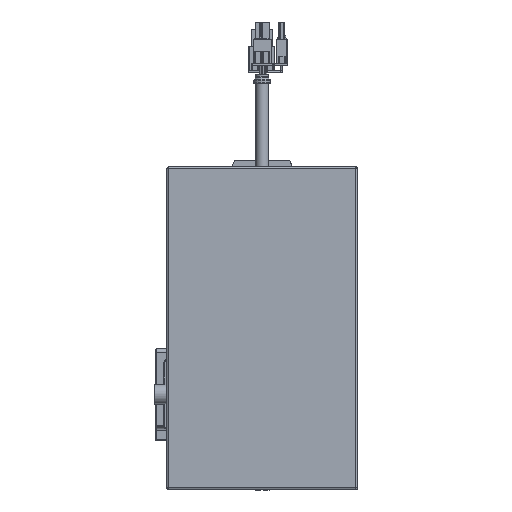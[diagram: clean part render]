
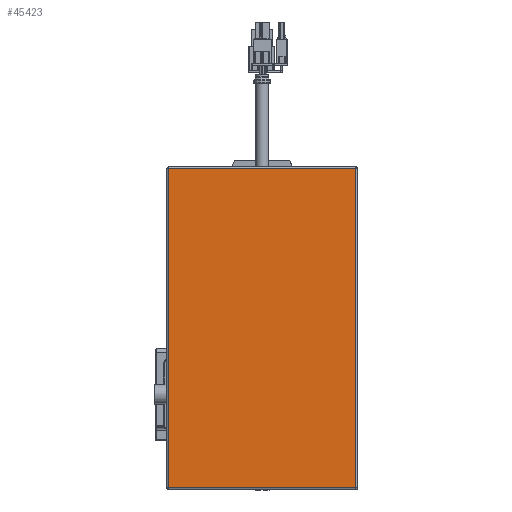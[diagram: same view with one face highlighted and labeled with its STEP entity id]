
A CAD part, top view. The second image highlights one B-rep face of the part: STEP entity #45423.
In plain terms, the highlighted planar face has unit normal (0, 0, 1).
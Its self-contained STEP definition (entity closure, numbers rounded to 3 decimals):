
#45384=CARTESIAN_POINT('',(-36.,36.,514.5));
#45385=DIRECTION('',(0.,1.,0.));
#45386=DIRECTION('',(0.,-0.,1.));
#45387=AXIS2_PLACEMENT_3D('',#45384,#45386,#45385);
#45388=PLANE('',#45387);
#45389=CARTESIAN_POINT('',(51.,-51.,514.5));
#45390=VERTEX_POINT('',#45389);
#45391=CARTESIAN_POINT('',(51.,123.,514.5));
#45392=VERTEX_POINT('',#45391);
#45393=CARTESIAN_POINT('',(51.,-51.,514.5));
#45394=DIRECTION('',(0.,1.,0.));
#45395=VECTOR('',#45394,174.);
#45396=LINE('',#45393,#45395);
#45397=EDGE_CURVE('',#45390,#45392,#45396,.T.);
#45398=ORIENTED_EDGE('E3955',*,*,#45397,.T.);
#45399=CARTESIAN_POINT('',(-51.,123.,514.5));
#45400=VERTEX_POINT('',#45399);
#45401=CARTESIAN_POINT('',(51.,123.,514.5));
#45402=DIRECTION('',(-1.,0.,0.));
#45403=VECTOR('',#45402,102.);
#45404=LINE('',#45401,#45403);
#45405=EDGE_CURVE('',#45392,#45400,#45404,.T.);
#45406=ORIENTED_EDGE('E3956',*,*,#45405,.T.);
#45407=CARTESIAN_POINT('',(-51.,-51.,514.5));
#45408=VERTEX_POINT('',#45407);
#45409=CARTESIAN_POINT('',(-51.,123.,514.5));
#45410=DIRECTION('',(0.,-1.,0.));
#45411=VECTOR('',#45410,174.);
#45412=LINE('',#45409,#45411);
#45413=EDGE_CURVE('',#45400,#45408,#45412,.T.);
#45414=ORIENTED_EDGE('E3957',*,*,#45413,.T.);
#45415=CARTESIAN_POINT('',(-51.,-51.,514.5));
#45416=DIRECTION('',(1.,0.,0.));
#45417=VECTOR('',#45416,102.);
#45418=LINE('',#45415,#45417);
#45419=EDGE_CURVE('',#45408,#45390,#45418,.T.);
#45420=ORIENTED_EDGE('E3958',*,*,#45419,.T.);
#45421=EDGE_LOOP('',(#45398,#45406,#45414,#45420));
#45422=FACE_OUTER_BOUND('',#45421,.T.);
#45423=ADVANCED_FACE('F1525',(#45422),#45388,.T.);
